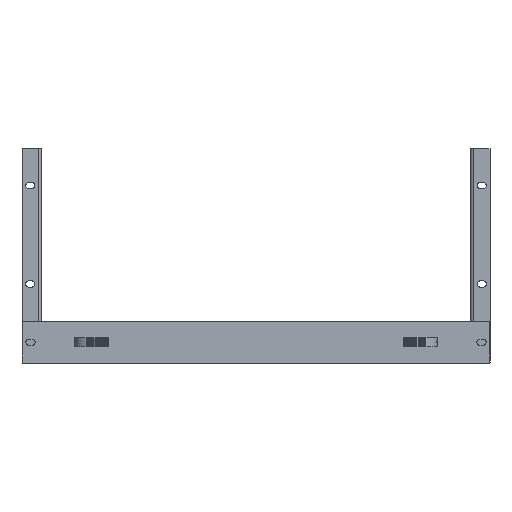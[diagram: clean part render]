
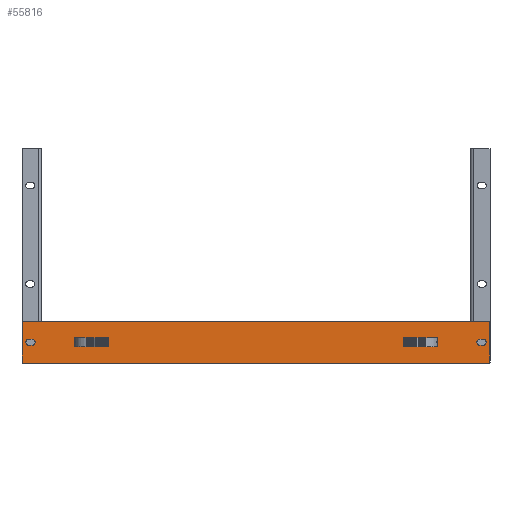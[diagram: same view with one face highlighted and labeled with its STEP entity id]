
A CAD part, top view. The second image highlights one B-rep face of the part: STEP entity #55816.
In plain terms, the highlighted planar face has unit normal (0, 0, 1).
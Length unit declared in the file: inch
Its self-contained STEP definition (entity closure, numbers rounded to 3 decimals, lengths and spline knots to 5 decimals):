
#55409=DIRECTION('',(1.,0.,0.));
#55410=VECTOR('',#55409,19.);
#55411=CARTESIAN_POINT('',(-9.5,0.,0.12));
#55412=LINE('',#55411,#55410);
#55413=DIRECTION('',(0.,-1.,0.));
#55414=VECTOR('',#55413,1.7);
#55415=CARTESIAN_POINT('',(-9.5,1.7,0.12));
#55416=LINE('',#55415,#55414);
#55417=DIRECTION('',(-1.,0.,0.));
#55418=VECTOR('',#55417,19.);
#55419=CARTESIAN_POINT('',(9.5,1.7,0.12));
#55420=LINE('',#55419,#55418);
#55421=DIRECTION('',(0.,1.,0.));
#55422=VECTOR('',#55421,1.7);
#55423=CARTESIAN_POINT('',(9.5,0.,0.12));
#55424=LINE('',#55423,#55422);
#55425=DIRECTION('',(-1.,0.,0.));
#55426=VECTOR('',#55425,0.125);
#55427=CARTESIAN_POINT('',(9.2265,0.725,0.12));
#55428=LINE('',#55427,#55426);
#55429=CARTESIAN_POINT('',(9.2265,0.85,0.12));
#55430=DIRECTION('',(0.,0.,1.));
#55431=DIRECTION('',(0.,-1.,0.));
#55432=AXIS2_PLACEMENT_3D('',#55429,#55430,#55431);
#55434=DIRECTION('',(1.,0.,0.));
#55435=VECTOR('',#55434,0.125);
#55436=CARTESIAN_POINT('',(9.1015,0.975,0.12));
#55437=LINE('',#55436,#55435);
#55438=CARTESIAN_POINT('',(9.1015,0.85,0.12));
#55439=DIRECTION('',(0.,0.,1.));
#55440=DIRECTION('',(0.,1.,0.));
#55441=AXIS2_PLACEMENT_3D('',#55438,#55439,#55440);
#55443=CARTESIAN_POINT('',(-9.2265,0.85,0.12));
#55444=DIRECTION('',(0.,0.,1.));
#55445=DIRECTION('',(0.,1.,0.));
#55446=AXIS2_PLACEMENT_3D('',#55443,#55444,#55445);
#55448=DIRECTION('',(-1.,0.,0.));
#55449=VECTOR('',#55448,0.125);
#55450=CARTESIAN_POINT('',(-9.1015,0.725,0.12));
#55451=LINE('',#55450,#55449);
#55452=CARTESIAN_POINT('',(-9.1015,0.85,0.12));
#55453=DIRECTION('',(0.,0.,1.));
#55454=DIRECTION('',(0.,-1.,0.));
#55455=AXIS2_PLACEMENT_3D('',#55452,#55453,#55454);
#55457=DIRECTION('',(1.,0.,0.));
#55458=VECTOR('',#55457,0.125);
#55459=CARTESIAN_POINT('',(-9.2265,0.975,0.12));
#55460=LINE('',#55459,#55458);
#55461=CARTESIAN_POINT('',(6.125,0.85,0.12));
#55462=DIRECTION('',(0.,0.,1.));
#55463=DIRECTION('',(-1.,0.,0.));
#55464=AXIS2_PLACEMENT_3D('',#55461,#55462,#55463);
#55466=CARTESIAN_POINT('',(6.125,0.85,0.12));
#55467=DIRECTION('',(0.,0.,1.));
#55468=DIRECTION('',(1.,0.,0.));
#55469=AXIS2_PLACEMENT_3D('',#55466,#55467,#55468);
#55471=CARTESIAN_POINT('',(7.25,0.85,0.12));
#55472=DIRECTION('',(0.,0.,1.));
#55473=DIRECTION('',(-1.,0.,0.));
#55474=AXIS2_PLACEMENT_3D('',#55471,#55472,#55473);
#55476=CARTESIAN_POINT('',(7.25,0.85,0.12));
#55477=DIRECTION('',(0.,0.,1.));
#55478=DIRECTION('',(1.,0.,0.));
#55479=AXIS2_PLACEMENT_3D('',#55476,#55477,#55478);
#55481=CARTESIAN_POINT('',(-6.125,0.85,0.12));
#55482=DIRECTION('',(0.,0.,1.));
#55483=DIRECTION('',(-1.,0.,0.));
#55484=AXIS2_PLACEMENT_3D('',#55481,#55482,#55483);
#55486=CARTESIAN_POINT('',(-6.125,0.85,0.12));
#55487=DIRECTION('',(0.,0.,1.));
#55488=DIRECTION('',(1.,0.,0.));
#55489=AXIS2_PLACEMENT_3D('',#55486,#55487,#55488);
#55491=CARTESIAN_POINT('',(-7.25,0.85,0.12));
#55492=DIRECTION('',(0.,0.,1.));
#55493=DIRECTION('',(-1.,0.,0.));
#55494=AXIS2_PLACEMENT_3D('',#55491,#55492,#55493);
#55496=CARTESIAN_POINT('',(-7.25,0.85,0.12));
#55497=DIRECTION('',(0.,0.,1.));
#55498=DIRECTION('',(1.,0.,0.));
#55499=AXIS2_PLACEMENT_3D('',#55496,#55497,#55498);
#55573=CARTESIAN_POINT('',(-9.5,0.,0.12));
#55574=CARTESIAN_POINT('',(9.5,0.,0.12));
#55575=VERTEX_POINT('',#55573);
#55576=VERTEX_POINT('',#55574);
#55577=CARTESIAN_POINT('',(9.5,1.7,0.12));
#55578=VERTEX_POINT('',#55577);
#55579=CARTESIAN_POINT('',(-9.5,1.7,0.12));
#55580=VERTEX_POINT('',#55579);
#55597=CARTESIAN_POINT('',(-9.2265,0.975,0.12));
#55598=CARTESIAN_POINT('',(-9.2265,0.725,0.12));
#55599=VERTEX_POINT('',#55597);
#55600=VERTEX_POINT('',#55598);
#55601=CARTESIAN_POINT('',(-9.1015,0.975,0.12));
#55602=VERTEX_POINT('',#55601);
#55603=CARTESIAN_POINT('',(-9.1015,0.725,0.12));
#55604=VERTEX_POINT('',#55603);
#55605=CARTESIAN_POINT('',(9.2265,0.725,0.12));
#55606=CARTESIAN_POINT('',(9.1015,0.725,0.12));
#55607=VERTEX_POINT('',#55605);
#55608=VERTEX_POINT('',#55606);
#55609=CARTESIAN_POINT('',(9.1015,0.975,0.12));
#55610=VERTEX_POINT('',#55609);
#55611=CARTESIAN_POINT('',(9.2265,0.975,0.12));
#55612=VERTEX_POINT('',#55611);
#55629=CARTESIAN_POINT('',(-7.359,0.85,0.12));
#55630=CARTESIAN_POINT('',(-7.141,0.85,0.12));
#55631=VERTEX_POINT('',#55629);
#55632=VERTEX_POINT('',#55630);
#55633=CARTESIAN_POINT('',(-6.234,0.85,0.12));
#55634=CARTESIAN_POINT('',(-6.016,0.85,0.12));
#55635=VERTEX_POINT('',#55633);
#55636=VERTEX_POINT('',#55634);
#55637=CARTESIAN_POINT('',(7.141,0.85,0.12));
#55638=CARTESIAN_POINT('',(7.359,0.85,0.12));
#55639=VERTEX_POINT('',#55637);
#55640=VERTEX_POINT('',#55638);
#55641=CARTESIAN_POINT('',(6.016,0.85,0.12));
#55642=CARTESIAN_POINT('',(6.234,0.85,0.12));
#55643=VERTEX_POINT('',#55641);
#55644=VERTEX_POINT('',#55642);
#55761=CARTESIAN_POINT('',(0.,0.,0.12));
#55762=DIRECTION('',(0.,0.,1.));
#55763=DIRECTION('',(1.,0.,0.));
#55764=AXIS2_PLACEMENT_3D('',#55761,#55762,#55763);
#55765=PLANE('',#55764);
#55766=ORIENTED_EDGE('',*,*,#55713,.F.);
#55767=ORIENTED_EDGE('',*,*,#55728,.F.);
#55768=ORIENTED_EDGE('',*,*,#55742,.F.);
#55769=ORIENTED_EDGE('',*,*,#55755,.F.);
#55770=EDGE_LOOP('',(#55766,#55767,#55768,#55769));
#55771=FACE_OUTER_BOUND('',#55770,.F.);
#55773=ORIENTED_EDGE('',*,*,#55772,.F.);
#55775=ORIENTED_EDGE('',*,*,#55774,.T.);
#55777=ORIENTED_EDGE('',*,*,#55776,.F.);
#55779=ORIENTED_EDGE('',*,*,#55778,.T.);
#55780=EDGE_LOOP('',(#55773,#55775,#55777,#55779));
#55781=FACE_BOUND('',#55780,.F.);
#55783=ORIENTED_EDGE('',*,*,#55782,.T.);
#55785=ORIENTED_EDGE('',*,*,#55784,.F.);
#55787=ORIENTED_EDGE('',*,*,#55786,.T.);
#55789=ORIENTED_EDGE('',*,*,#55788,.F.);
#55790=EDGE_LOOP('',(#55783,#55785,#55787,#55789));
#55791=FACE_BOUND('',#55790,.F.);
#55793=ORIENTED_EDGE('',*,*,#55792,.T.);
#55795=ORIENTED_EDGE('',*,*,#55794,.T.);
#55796=EDGE_LOOP('',(#55793,#55795));
#55797=FACE_BOUND('',#55796,.F.);
#55799=ORIENTED_EDGE('',*,*,#55798,.T.);
#55801=ORIENTED_EDGE('',*,*,#55800,.T.);
#55802=EDGE_LOOP('',(#55799,#55801));
#55803=FACE_BOUND('',#55802,.F.);
#55805=ORIENTED_EDGE('',*,*,#55804,.T.);
#55807=ORIENTED_EDGE('',*,*,#55806,.T.);
#55808=EDGE_LOOP('',(#55805,#55807));
#55809=FACE_BOUND('',#55808,.F.);
#55811=ORIENTED_EDGE('',*,*,#55810,.T.);
#55813=ORIENTED_EDGE('',*,*,#55812,.T.);
#55814=EDGE_LOOP('',(#55811,#55813));
#55815=FACE_BOUND('',#55814,.F.);
#55816=ADVANCED_FACE('',(#55771,#55781,#55791,#55797,#55803,#55809,#55815),
#55765,.T.);
#55433=CIRCLE('',#55432,0.125);
#55442=CIRCLE('',#55441,0.125);
#55447=CIRCLE('',#55446,0.125);
#55456=CIRCLE('',#55455,0.125);
#55465=CIRCLE('',#55464,0.109);
#55470=CIRCLE('',#55469,0.109);
#55475=CIRCLE('',#55474,0.109);
#55480=CIRCLE('',#55479,0.109);
#55485=CIRCLE('',#55484,0.109);
#55490=CIRCLE('',#55489,0.109);
#55495=CIRCLE('',#55494,0.109);
#55500=CIRCLE('',#55499,0.109);
#55713=EDGE_CURVE('',#55575,#55576,#55412,.T.);
#55728=EDGE_CURVE('',#55580,#55575,#55416,.T.);
#55742=EDGE_CURVE('',#55578,#55580,#55420,.T.);
#55755=EDGE_CURVE('',#55576,#55578,#55424,.T.);
#55772=EDGE_CURVE('',#55607,#55608,#55428,.T.);
#55774=EDGE_CURVE('',#55607,#55612,#55433,.T.);
#55776=EDGE_CURVE('',#55610,#55612,#55437,.T.);
#55778=EDGE_CURVE('',#55610,#55608,#55442,.T.);
#55782=EDGE_CURVE('',#55599,#55600,#55447,.T.);
#55784=EDGE_CURVE('',#55604,#55600,#55451,.T.);
#55786=EDGE_CURVE('',#55604,#55602,#55456,.T.);
#55788=EDGE_CURVE('',#55599,#55602,#55460,.T.);
#55792=EDGE_CURVE('',#55643,#55644,#55465,.T.);
#55794=EDGE_CURVE('',#55644,#55643,#55470,.T.);
#55798=EDGE_CURVE('',#55639,#55640,#55475,.T.);
#55800=EDGE_CURVE('',#55640,#55639,#55480,.T.);
#55804=EDGE_CURVE('',#55635,#55636,#55485,.T.);
#55806=EDGE_CURVE('',#55636,#55635,#55490,.T.);
#55810=EDGE_CURVE('',#55631,#55632,#55495,.T.);
#55812=EDGE_CURVE('',#55632,#55631,#55500,.T.);
